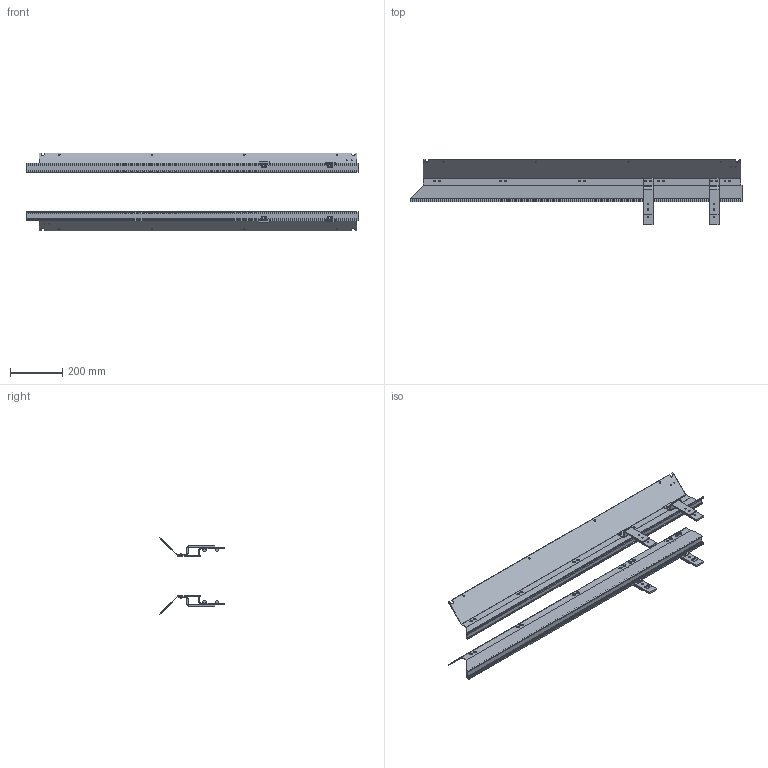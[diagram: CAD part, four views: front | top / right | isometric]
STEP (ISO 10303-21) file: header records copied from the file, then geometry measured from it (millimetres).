
FILE_DESCRIPTION((''),'2;1');
FILE_NAME('301284_ASM','2021-10-22T',('james.horst'),(''),'PRO/ENGINEER BY PARAMETRIC TECHNOLOGY CORPORATION, 2012420','PRO/ENGINEER BY PARAMETRIC TECHNOLOGY CORPORATION, 2012420','');
FILE_SCHEMA(('CONFIG_CONTROL_DESIGN'));
Length unit declared in the file: inch
Products named in the file (9): X12908; X12909; 300697M; 301279; 301273; 639971M; 930508M; 301285_ASM; 301284_ASM
Assembly tree (14 placements, depth 3):
  301284_ASM
    X12908
    X12909
    300697M  x2
    301285_ASM  x4
      301279
      301273
      639971M
      930508M
Bounding box: 1276.35 x 251.15 x 298.42 mm (x, y, z)
Volume: 1768731.4 mm3; surface area: 1240285.2 mm2
Topology: 28 solids, 52 shells, 708 faces, 1854 edges, 1222 vertices
Faces by surface type: plane 332, cylinder 288, cone 88
Entity records: 6523 total; most frequent: DIRECTION 1168, CARTESIAN_POINT 1107, ORIENTED_EDGE 1008, EDGE_CURVE 516, AXIS2_PLACEMENT_3D 423, VERTEX_POINT 340, VECTOR 322, LINE 322
